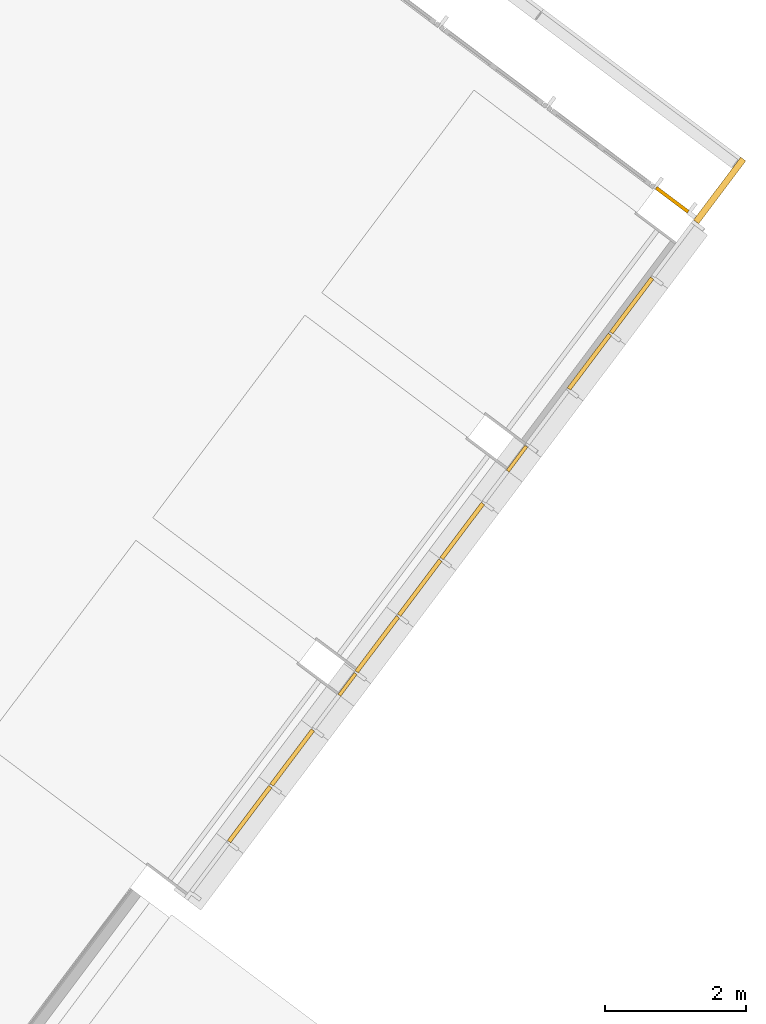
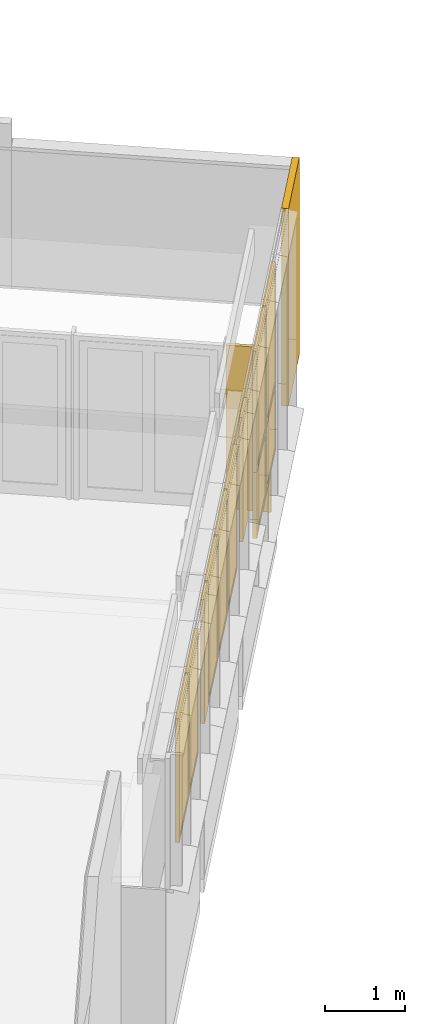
# One storey, part 9 of 15: 12 windows, 1 door, 3 elements without a shape of their own.
"""IFC2X3 building model written with IfcOpenShell, lengths in metres."""

import ifcopenshell
import ifcopenshell.guid

model = None  # the IFC model being written
_history = None  # IfcOwnerHistory: only IFC2X3 demands one
_inside = {}  # id of a spatial element -> (the spatial element, [elements in it])
_under = {}  # id of a project, library or spatial element -> (it, [spatial elements below it])
_declared = {}  # id of a project -> (the project, [libraries it declares])
_typed = {}  # id of a type object -> (the type object, [elements of that type])
_made_of = {}  # id of a material, layer set ... -> (it, [elements and type objects made of it])


def new_model(schema):
    """Start an empty IFC model of exactly this schema.

    Asked for "IFC4X3", IfcOpenShell would pick the latest addendum, in which some entities
    have other attributes; the version numbers below select the first issue.
    IFC2X3 requires an IfcOwnerHistory on every rooted entity: one is made here for all.
    """
    global model, _history
    if schema == "IFC4X3":
        model = ifcopenshell.file(schema_version=(4, 3, 0, 0))
    else:
        model = ifcopenshell.file(schema=schema)
    _inside.clear()
    _under.clear()
    _declared.clear()
    _typed.clear()
    _made_of.clear()
    _history = None
    if model.schema == "IFC2X3":
        org = make("IfcOrganization", Name="unknown")
        user = make(
            "IfcPersonAndOrganization",
            ThePerson=make("IfcPerson", FamilyName="unknown"),
            TheOrganization=org,
        )
        app = make(
            "IfcApplication",
            ApplicationDeveloper=org,
            Version="unknown",
            ApplicationFullName="unknown",
            ApplicationIdentifier="unknown",
        )
        _history = make(
            "IfcOwnerHistory",
            OwningUser=user,
            OwningApplication=app,
            ChangeAction="ADDED",
            CreationDate=0,
        )
    return model


def make(cls, **values):
    """One entity of the class cls with the attributes given. An attribute that is None is left unset."""
    return model.create_entity(
        cls, **{name: value for name, value in values.items() if value is not None}
    )


def entity(cls, *values):
    """Any entity or typed value of the class cls, its attributes in the order of the schema. None: left unset."""
    e = model.create_entity(cls)
    for i, value in enumerate(values):
        if value is not None:
            e[i] = value
    return e


def rooted(cls, **values):
    """An entity with a GlobalId (a new one), such as an element, a storey or a relation."""
    return make(cls, GlobalId=ifcopenshell.guid.new(), OwnerHistory=_history, **values)


def si_unit(unit_type, name, prefix=None):
    """IfcSIUnit, for example si_unit("LENGTHUNIT", "METRE", prefix="MILLI")."""
    return make("IfcSIUnit", UnitType=unit_type, Prefix=prefix, Name=name)


def converted_unit(unit_type, name, factor, base, dimensions=None, offset=None):
    """IfcConversionBasedUnit, such as the inch: factor (a typed value) times the base unit."""
    return make(
        "IfcConversionBasedUnit"
        if offset is None
        else "IfcConversionBasedUnitWithOffset",
        ConversionOffset=offset,
        Dimensions=None
        if dimensions is None
        else entity("IfcDimensionalExponents", *dimensions),
        UnitType=unit_type,
        Name=name,
        ConversionFactor=make(
            "IfcMeasureWithUnit", ValueComponent=factor, UnitComponent=base
        ),
    )


def derived_unit(unit_type, elements):
    """IfcDerivedUnit: a product of units, each with its exponent."""
    return make(
        "IfcDerivedUnit",
        Elements=[
            make("IfcDerivedUnitElement", Unit=unit, Exponent=power)
            for unit, power in elements
        ],
        UnitType=unit_type,
    )


def assignment(units):
    """IfcUnitAssignment: the units of a project."""
    return None if units is None else make("IfcUnitAssignment", Units=units)


def point(xyz):
    """IfcCartesianPoint."""
    return None if xyz is None else make("IfcCartesianPoint", Coordinates=xyz)


def direction(xyz):
    """IfcDirection."""
    return None if xyz is None else make("IfcDirection", DirectionRatios=xyz)


def frame(location, z_axis=None, x_axis=None):
    """IfcAxis2Placement3D, a coordinate frame: its origin and axes. An axis left out is left unset."""
    return make(
        "IfcAxis2Placement3D",
        Location=point(location),
        Axis=direction(z_axis),
        RefDirection=direction(x_axis),
    )


def frame_2d(location, x_axis=None):
    """IfcAxis2Placement2D, a coordinate frame in the plane: its origin and x axis."""
    return make(
        "IfcAxis2Placement2D", Location=point(location), RefDirection=direction(x_axis)
    )


def origin():
    """The frame at (0, 0, 0) with its axes left unset."""
    return frame((0.0, 0.0, 0.0))


def origin_2d_with_axis():
    """The frame at (0, 0) in the plane with the x axis (1, 0) written out."""
    return frame_2d((0.0, 0.0), x_axis=(1.0, 0.0))


def place(relative_to, where):
    """IfcLocalPlacement: puts the frame where relative to a parent placement (None: the world)."""
    return make(
        "IfcLocalPlacement", PlacementRelTo=relative_to, RelativePlacement=where
    )


def context(
    kind, dimensions, precision=None, world=None, true_north=None, identifier=None
):
    """IfcGeometricRepresentationContext, for example the 3D "Model" context."""
    return make(
        "IfcGeometricRepresentationContext",
        ContextIdentifier=identifier,
        ContextType=kind,
        CoordinateSpaceDimension=dimensions,
        Precision=precision,
        WorldCoordinateSystem=world,
        TrueNorth=true_north,
    )


def subcontext(parent, identifier, kind, view, scale=None):
    """IfcGeometricRepresentationSubContext, for example "Body" below "Model"."""
    return make(
        "IfcGeometricRepresentationSubContext",
        ContextIdentifier=identifier,
        ContextType=kind,
        ParentContext=parent,
        TargetScale=scale,
        TargetView=view,
    )


def project(units=None, contexts=None):
    """IfcProject with its units and contexts."""
    return rooted(
        "IfcProject",
        Name="project",
        RepresentationContexts=contexts,
        UnitsInContext=assignment(units),
    )


def spatial(cls, under=None, at=None, **own):
    """A site, building, storey or space (cls), placed at a placement, below another one or the project."""
    s = rooted(cls, ObjectPlacement=at, **own)
    if under is not None:
        _under.setdefault(under.id(), (under, []))[1].append(s)
    return s


def polyline(points):
    """IfcPolyline through the points."""
    return make("IfcPolyline", Points=[point(p) for p in points])


def profile(cls, at=None, kind="AREA", **sizes):
    """A parametric profile (cls). Its sizes go by their IFC names, for example OverallWidth=200.0."""
    return make(cls, ProfileType=kind, Position=at, **sizes)


def rectangle(**sizes):
    """IfcRectangleProfileDef."""
    return profile("IfcRectangleProfileDef", **sizes)


def outline(outer, holes=None, kind="AREA"):
    """IfcArbitraryClosedProfileDef: a profile drawn as a closed curve; with holes, ...WithVoids."""
    if holes is None:
        return make("IfcArbitraryClosedProfileDef", ProfileType=kind, OuterCurve=outer)
    return make(
        "IfcArbitraryProfileDefWithVoids",
        ProfileType=kind,
        OuterCurve=outer,
        InnerCurves=holes,
    )


def extrude(swept, where, along, depth):
    """IfcExtrudedAreaSolid: the profile swept, set in the frame where, extruded along a direction by depth."""
    return make(
        "IfcExtrudedAreaSolid",
        SweptArea=swept,
        Position=where,
        ExtrudedDirection=direction(along),
        Depth=depth,
    )


def faces_of(points, faces, orient=None, outer=None):
    """IfcFace entities. A face is a list of loops; a loop is a list of indices into points, from 0.

    orient and outer hold one flag for each loop. By default every Orientation is true, the
    first loop of a face is its IfcFaceOuterBound and the others are IfcFaceBound.
    """
    made = []
    for i, loops in enumerate(faces):
        bounds = []
        for j, loop in enumerate(loops):
            is_outer = j == 0 if outer is None else outer[i][j]
            bounds.append(
                make(
                    "IfcFaceOuterBound" if is_outer else "IfcFaceBound",
                    Bound=make("IfcPolyLoop", Polygon=[points[k] for k in loop]),
                    Orientation=True if orient is None else orient[i][j],
                )
            )
        made.append(make("IfcFace", Bounds=bounds))
    return made


def faceted_brep(points, faces, orient=None, outer=None, voids=None):
    """IfcFacetedBrep: a solid bounded by flat faces; with voids (closed shells), ...WithVoids."""
    shared = [point(p) for p in points]
    hull = make("IfcClosedShell", CfsFaces=faces_of(shared, faces, orient, outer))
    if voids is None:
        return make("IfcFacetedBrep", Outer=hull)
    return make(
        "IfcFacetedBrepWithVoids",
        Outer=hull,
        Voids=[
            make(cls, CfsFaces=faces_of(shared, fs, o, b)) for cls, fs, o, b in voids
        ],
    )


def shape(context_of_items, identifier, shape_type, items):
    """IfcShapeRepresentation: the items that make up one representation, for example the "Body"."""
    return make(
        "IfcShapeRepresentation",
        ContextOfItems=context_of_items,
        RepresentationIdentifier=identifier,
        RepresentationType=shape_type,
        Items=items,
    )


def source(mapping_origin, context_of_items, identifier, shape_type, items):
    """IfcRepresentationMap: a shape defined once, which mapped items show again and again."""
    return make(
        "IfcRepresentationMap",
        MappingOrigin=mapping_origin,
        MappedRepresentation=shape(context_of_items, identifier, shape_type, items),
    )


def transform(
    local_origin,
    x_axis=None,
    y_axis=None,
    z_axis=None,
    scale=None,
    scale2=None,
    scale3=None,
    uniform=True,
):
    """IfcCartesianTransformationOperator3D, or its non-uniform kind. x_axis, y_axis, z_axis: its Axis1, 2, 3."""
    if uniform:
        return make(
            "IfcCartesianTransformationOperator3D",
            Axis1=direction(x_axis),
            Axis2=direction(y_axis),
            LocalOrigin=point(local_origin),
            Scale=scale,
            Axis3=direction(z_axis),
        )
    return make(
        "IfcCartesianTransformationOperator3DnonUniform",
        Axis1=direction(x_axis),
        Axis2=direction(y_axis),
        LocalOrigin=point(local_origin),
        Scale=scale,
        Axis3=direction(z_axis),
        Scale2=scale2,
        Scale3=scale3,
    )


def mapped(mapping_source, mapping_target):
    """IfcMappedItem: shows the shape of a source again, moved by a transform."""
    return make(
        "IfcMappedItem", MappingSource=mapping_source, MappingTarget=mapping_target
    )


def material(Name=None, Category=None):
    """IfcMaterial."""
    return make("IfcMaterial", Name=Name, Category=Category)


def material_list(materials):
    """IfcMaterialList."""
    return make("IfcMaterialList", Materials=materials)


def made_of(thing, what):
    """Note that an element or type object is made of a material, layer set ...; save() writes the relation."""
    if what is not None:
        _made_of.setdefault(what.id(), (what, []))[1].append(thing)
    return thing


def type_object(cls, material=None, **own):
    """A type object (cls), such as IfcWallType, which elements share."""
    return made_of(rooted(cls, **own), material)


def type_shapes(of_type, sources):
    """Give a type object the sources (RepresentationMaps) that its elements show as mapped items."""
    of_type.RepresentationMaps = sources


def element(
    cls,
    number,
    at=None,
    inside=None,
    cuts=None,
    type_object=None,
    material=None,
    context=None,
    identifier="Body",
    shape_type=None,
    held_by="IfcProductDefinitionShape",
    body=None,
    shapes=None,
    **own,
):
    """One element of the class cls, such as IfcWall. Its Tag is "e" and its number.

    at: its placement. inside: the storey or other place that contains it. cuts: it is an
    opening in that element (IfcRelVoidsElement). A single representation is given by context,
    identifier, shape_type and body (its items); several are given by shapes. held_by: the class
    of the entity that holds the representations. save() writes the other relations.
    """
    e = rooted(cls, Tag="e%d" % number, ObjectPlacement=at, **own)
    if body is not None:
        shapes = [shape(context, identifier, shape_type, body)]
    if shapes is not None:
        e.Representation = make(held_by, Representations=shapes)
    if inside is not None:
        _inside.setdefault(inside.id(), (inside, []))[1].append(e)
    if cuts is not None:
        rooted(
            "IfcRelVoidsElement", RelatingBuildingElement=cuts, RelatedOpeningElement=e
        )
    if type_object is not None:
        _typed.setdefault(type_object.id(), (type_object, []))[1].append(e)
    return made_of(e, material)


def aggregate(whole, parts):
    """IfcRelAggregates: a whole, such as a stair, and the parts it consists of."""
    return rooted("IfcRelAggregates", RelatingObject=whole, RelatedObjects=parts)


def save(model, path):
    """Write the relations noted so far, then the file.

    IfcRelAggregates (storeys below a building ...), IfcRelContainedInSpatialStructure (elements
    in a storey), IfcRelDefinesByType, IfcRelAssociatesMaterial and IfcRelDeclares: one each for
    every whole, place, type object, material and project.
    """
    for whole, parts in _under.values():
        aggregate(whole, parts)
    for where, things in _inside.values():
        rooted(
            "IfcRelContainedInSpatialStructure",
            RelatedElements=things,
            RelatingStructure=where,
        )
    for kind, things in _typed.values():
        rooted("IfcRelDefinesByType", RelatedObjects=things, RelatingType=kind)
    for what, things in _made_of.values():
        rooted("IfcRelAssociatesMaterial", RelatedObjects=things, RelatingMaterial=what)
    for by, libraries in _declared.values():
        rooted("IfcRelDeclares", RelatingContext=by, RelatedDefinitions=libraries)
    model.write(path)


model = new_model("IFC2X3")

# Units and contexts
model_context = context("Model", 3, precision=1e-05, world=origin(), true_north=direction((6.123031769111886e-17, 1.0)))
body_context = subcontext(model_context, "Body", "Model", "MODEL_VIEW")
ifc_project = project(units=[si_unit("LENGTHUNIT", "METRE"), si_unit("AREAUNIT", "SQUARE_METRE"), si_unit("VOLUMEUNIT", "CUBIC_METRE"), converted_unit("PLANEANGLEUNIT", "DEGREE", entity("IfcRatioMeasure", 0.017453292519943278), si_unit("PLANEANGLEUNIT", "RADIAN"), dimensions=[0, 0, 0, 0, 0, 0, 0]), si_unit("MASSUNIT", "GRAM", prefix="KILO"), derived_unit("MASSDENSITYUNIT", [(si_unit("MASSUNIT", "GRAM", prefix="KILO"), 1), (si_unit("LENGTHUNIT", "METRE"), -3)]), derived_unit("IONCONCENTRATIONUNIT", [(si_unit("MASSUNIT", "GRAM", prefix="KILO"), 1), (si_unit("LENGTHUNIT", "METRE"), -3)]), derived_unit("MOMENTOFINERTIAUNIT", [(si_unit("LENGTHUNIT", "METRE"), 4)]), si_unit("TIMEUNIT", "SECOND"), si_unit("FREQUENCYUNIT", "HERTZ"), si_unit("THERMODYNAMICTEMPERATUREUNIT", "DEGREE_CELSIUS"), derived_unit("THERMALTRANSMITTANCEUNIT", [(si_unit("MASSUNIT", "GRAM", prefix="KILO"), 1), (si_unit("THERMODYNAMICTEMPERATUREUNIT", "KELVIN"), -1), (si_unit("TIMEUNIT", "SECOND"), -3)]), derived_unit("THERMALCONDUCTANCEUNIT", [(si_unit("MASSUNIT", "GRAM", prefix="KILO"), 1), (si_unit("THERMODYNAMICTEMPERATUREUNIT", "KELVIN"), -1), (si_unit("TIMEUNIT", "SECOND"), -3), (si_unit("LENGTHUNIT", "METRE"), 1)]), derived_unit("VOLUMETRICFLOWRATEUNIT", [(si_unit("LENGTHUNIT", "METRE"), 3), (si_unit("TIMEUNIT", "SECOND"), -1)]), derived_unit("MASSFLOWRATEUNIT", [(si_unit("MASSUNIT", "GRAM", prefix="KILO"), 1), (si_unit("TIMEUNIT", "SECOND"), -1)]), derived_unit("ROTATIONALFREQUENCYUNIT", [(si_unit("TIMEUNIT", "SECOND"), -1)]), si_unit("ELECTRICCURRENTUNIT", "AMPERE"), si_unit("ELECTRICVOLTAGEUNIT", "VOLT"), si_unit("POWERUNIT", "WATT"), si_unit("FORCEUNIT", "NEWTON", prefix="KILO"), si_unit("ILLUMINANCEUNIT", "LUX"), si_unit("LUMINOUSFLUXUNIT", "LUMEN"), si_unit("LUMINOUSINTENSITYUNIT", "CANDELA"), derived_unit("USERDEFINED", [(si_unit("MASSUNIT", "GRAM", prefix="KILO"), -1), (si_unit("LENGTHUNIT", "METRE"), -2), (si_unit("TIMEUNIT", "SECOND"), 3), (si_unit("LUMINOUSFLUXUNIT", "LUMEN"), 1)]), derived_unit("USERDEFINED", [(si_unit("MASSUNIT", "GRAM", prefix="KILO"), 1), (si_unit("TIMEUNIT", "SECOND"), -3), (si_unit("LENGTHUNIT", "METRE"), 3), (si_unit("ELECTRICCURRENTUNIT", "AMPERE"), -2)]), derived_unit("SOUNDPOWERUNIT", [(si_unit("MASSUNIT", "GRAM", prefix="KILO"), 1), (si_unit("TIMEUNIT", "SECOND"), -3), (si_unit("LENGTHUNIT", "METRE"), 2)]), derived_unit("SOUNDPRESSUREUNIT", [(si_unit("MASSUNIT", "GRAM", prefix="KILO"), 1), (si_unit("LENGTHUNIT", "METRE"), -1), (si_unit("TIMEUNIT", "SECOND"), -2)]), derived_unit("LINEARVELOCITYUNIT", [(si_unit("LENGTHUNIT", "METRE"), 1), (si_unit("TIMEUNIT", "SECOND"), -1)]), si_unit("PRESSUREUNIT", "PASCAL"), derived_unit("USERDEFINED", [(si_unit("MASSUNIT", "GRAM", prefix="KILO"), 1), (si_unit("LENGTHUNIT", "METRE"), -2), (si_unit("TIMEUNIT", "SECOND"), -2)]), derived_unit("LINEARFORCEUNIT", [(si_unit("MASSUNIT", "GRAM", prefix="KILO"), 1), (si_unit("TIMEUNIT", "SECOND"), -2)]), derived_unit("PLANARFORCEUNIT", [(si_unit("MASSUNIT", "GRAM", prefix="KILO"), 1), (si_unit("LENGTHUNIT", "METRE"), -1), (si_unit("TIMEUNIT", "SECOND"), -2)]), derived_unit("SPECIFICHEATCAPACITYUNIT", [(si_unit("THERMODYNAMICTEMPERATUREUNIT", "KELVIN"), -1), (si_unit("LENGTHUNIT", "METRE"), 2), (si_unit("TIMEUNIT", "SECOND"), -2)]), derived_unit("HEATINGVALUEUNIT", [(si_unit("LENGTHUNIT", "METRE"), 2), (si_unit("TIMEUNIT", "SECOND"), -2)]), derived_unit("VAPORPERMEABILITYUNIT", [(si_unit("LENGTHUNIT", "METRE"), -1), (si_unit("TIMEUNIT", "SECOND"), 1)]), derived_unit("DYNAMICVISCOSITYUNIT", [(si_unit("MASSUNIT", "GRAM", prefix="KILO"), 1), (si_unit("TIMEUNIT", "SECOND"), -1), (si_unit("LENGTHUNIT", "METRE"), -1)]), derived_unit("THERMALEXPANSIONCOEFFICIENTUNIT", [(si_unit("THERMODYNAMICTEMPERATUREUNIT", "KELVIN"), -1)]), derived_unit("MODULUSOFELASTICITYUNIT", [(si_unit("MASSUNIT", "GRAM", prefix="KILO"), 1), (si_unit("LENGTHUNIT", "METRE"), -1), (si_unit("TIMEUNIT", "SECOND"), -2)]), derived_unit("ISOTHERMALMOISTURECAPACITYUNIT", [(si_unit("LENGTHUNIT", "METRE"), 3), (si_unit("MASSUNIT", "GRAM", prefix="KILO"), -1)]), derived_unit("MOISTUREDIFFUSIVITYUNIT", [(si_unit("TIMEUNIT", "SECOND"), -1), (si_unit("LENGTHUNIT", "METRE"), 2)])], contexts=[model_context])

# Site, building, storey
site_placement = place(None, frame((0.0, 0.0, 235.0), z_axis=(0.0, 0.0, 1.0), x_axis=(-0.7996477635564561, 0.6004693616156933, 0.0)))
site = spatial("IfcSite", under=ifc_project, at=site_placement, Name="Default", CompositionType="ELEMENT")
building_placement = place(site_placement, origin())
building = spatial("IfcBuilding", under=site, at=building_placement, CompositionType="ELEMENT")
storey_placement = place(building_placement, frame((0.0, 0.0, -5.4499999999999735)))
storey = spatial("IfcBuildingStorey", under=building, at=storey_placement, Name="PS1- Gimnàs", CompositionType="ELEMENT", Elevation=-5.4499999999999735)

# Curtain wall, windows
curtain_wall_type_1 = type_object("IfcCurtainWallType", Name="Muro cortina:MC- EXT- MCv1- lateral", PredefinedType="NOTDEFINED")
curtain_wall_1_placement = place(storey_placement, frame((0.0, 0.0, 5.4499999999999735)))
curtain_wall_1 = element("IfcCurtainWall", 1, at=curtain_wall_1_placement, inside=storey, type_object=curtain_wall_type_1, Name="Muro cortina:MC- EXT- MCv1- lateral", ObjectType="Muro cortina:MC- EXT- MCv1- lateral")
ifc_material_1 = material(Name="<Unnamed>")
ifc_material_2 = material(Name="_Vidre")
ifc_material_3 = material(Name="_Alumini- T1- Perfil")
ifc_material_list_1 = material_list([ifc_material_1, ifc_material_2, ifc_material_3])
window_style_1 = type_object("IfcWindowStyle", Name="MC- Alu- Conjunt vidre fix revestiment:MC- Alu- Conjunt vidre fix revestiment", ConstructionType="NOTDEFINED", OperationType="NOTDEFINED", ParameterTakesPrecedence=False, Sizeable=False, material=ifc_material_list_1)
shared_shape_1 = source(origin(), body_context, "Body", "SweptSolid", [
    extrude(rectangle(XDim=0.039999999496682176, YDim=0.42999999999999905, at=frame_2d((3.469446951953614e-18, 0.0), x_axis=(1.0, 0.0))), frame((0.0, -0.029999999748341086, 0.0050000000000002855), z_axis=(0.0, 0.0, 1.0), x_axis=(0.0, -1.0, 0.0)), (0.0, 0.0, 1.0), 1.8814999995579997),
    extrude(rectangle(XDim=0.010000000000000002, YDim=0.43999999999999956, at=origin_2d_with_axis()), frame((0.0, -0.005000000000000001, 0.0), z_axis=(0.0, 0.0, 1.0), x_axis=(0.0, -1.0, 0.0)), (0.0, 0.0, 1.0), 1.8914999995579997),
    extrude(outline(polyline([(-0.21999999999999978, -0.9457499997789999), (0.21999999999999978, -0.9457499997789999), (0.21999999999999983, 0.9457499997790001), (-0.2199999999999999, 0.9457499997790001), (-0.21999999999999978, -0.9457499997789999)]), holes=[polyline([(0.21499999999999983, -0.940749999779), (-0.21499999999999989, -0.940749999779), (-0.21499999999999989, 0.940749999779), (0.21499999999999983, 0.940749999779), (0.21499999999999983, -0.940749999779)])]), frame((0.0, -0.049999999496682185, 0.9457499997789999), z_axis=(0.0, 1.0, 0.0), x_axis=(1.0, 0.0, 0.0)), (0.0, 0.0, 1.0), 0.03999999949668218),
])
type_shapes(window_style_1, [shared_shape_1])
window_1_placement = place(curtain_wall_1_placement, frame((3.085147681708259, -34.17019175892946, -2.783999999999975), z_axis=(0.0, 0.0, 1.0), x_axis=(0.0, 1.0, 0.0)))
window_1 = element("IfcWindow", 2, at=window_1_placement, type_object=window_style_1, material=ifc_material_list_1, Name="MC- Alu- Conjunt vidre fix revestiment:MC- Alu- Conjunt vidre fix revestiment", ObjectType="MC- Alu- Conjunt vidre fix revestiment:MC- Alu- Conjunt vidre fix revestiment", OverallHeight=1.8914999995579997, OverallWidth=0.4399999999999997, context=body_context, shape_type="MappedRepresentation", body=[
    mapped(shared_shape_1, transform((0.0, 0.0, 0.0), scale=1.0)),
])
ifc_material_list_2 = material_list([ifc_material_2, ifc_material_3])
window_style_2 = type_object("IfcWindowStyle", Name="MC- Alu- Conjunt vidre fix- 62x60 cm:MC- Alu- Conjunt vidre fix- 62x60 cm", ConstructionType="NOTDEFINED", OperationType="NOTDEFINED", ParameterTakesPrecedence=False, Sizeable=False, material=ifc_material_list_2)
shared_shape_2 = source(origin(), body_context, "Body", "Brep", [
    faceted_brep([(-0.4393309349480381, -0.007600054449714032, 0.048806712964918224), (0.4393309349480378, -0.007600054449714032, 0.048806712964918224), (0.4393309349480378, -0.03160022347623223, 0.048806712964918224), (-0.4393309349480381, -0.03160022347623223, 0.048806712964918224), (-0.4393309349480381, -0.007600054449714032, 1.8424999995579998), (0.4393309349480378, -0.007600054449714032, 1.8424999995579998), (0.4393309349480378, -0.03160022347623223, 1.8424999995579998), (-0.4393309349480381, -0.03160022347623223, 1.8424999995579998)], [[[0, 1, 2, 3]], [[4, 5, 1, 0]], [[5, 6, 2, 1]], [[6, 7, 3, 2]], [[7, 4, 0, 3]], [[4, 7, 6, 5]]]),
    faceted_brep([(-0.48813764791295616, -0.05999999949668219, 1.8914999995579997), (-0.48813764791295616, 0.0, 1.8914999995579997), (-0.48813764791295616, 0.0, 0.0), (-0.4881376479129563, -0.05999999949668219, 0.0), (-0.42533083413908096, 0.0, 1.8286931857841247), (-0.42533083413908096, 0.0, 0.06280681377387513), (0.425330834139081, 0.0, 0.06280681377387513), (0.42533083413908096, 0.0, 1.8286931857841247), (0.4881376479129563, 0.0, 1.8914999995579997), (0.48813764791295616, 0.0, 0.0), (0.4881376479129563, -0.05999999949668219, 0.0), (0.48813764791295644, -0.05999999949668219, 1.8914999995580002), (0.4253336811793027, -0.05999999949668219, 1.8286960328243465), (0.4253336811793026, -0.05999999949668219, 0.0628039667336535), (-0.4253336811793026, -0.05999999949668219, 0.06280396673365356), (-0.4253336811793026, -0.05999999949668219, 1.8286960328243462), (-0.4253336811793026, -0.03160022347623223, 1.8286960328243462), (-0.42533368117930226, -0.03160022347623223, 0.06280396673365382), (0.42533368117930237, -0.03160022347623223, 0.06280396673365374), (0.42533368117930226, -0.03160022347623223, 1.828696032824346), (0.43933093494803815, -0.03160022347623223, 1.8426932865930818), (0.439330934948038, -0.03160022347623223, 0.048806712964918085), (-0.439330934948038, -0.03160022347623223, 0.04880671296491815), (-0.439330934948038, -0.03160022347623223, 1.8426932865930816), (-0.439330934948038, -0.007600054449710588, 1.8426932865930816), (-0.439330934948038, -0.007600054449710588, 0.04880671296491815), (0.439330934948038, -0.007600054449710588, 0.048806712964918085), (0.439330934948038, -0.007600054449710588, 1.8426932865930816), (0.4253308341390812, -0.007600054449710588, 1.8286931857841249), (0.425330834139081, -0.007600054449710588, 0.06280681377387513), (-0.4253308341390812, -0.007600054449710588, 0.06280681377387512), (-0.42533083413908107, -0.007600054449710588, 1.8286931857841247)], [[[0, 1, 2, 3]], [[4, 5, 6, 7], [8, 9, 2, 1]], [[3, 2, 9, 10]], [[0, 3, 10, 11], [12, 13, 14, 15]], [[16, 15, 14, 17]], [[17, 14, 13, 18]], [[16, 17, 18, 19], [20, 21, 22, 23]], [[24, 23, 22, 25]], [[25, 22, 21, 26]], [[24, 25, 26, 27], [28, 29, 30, 31]], [[4, 31, 30, 5]], [[5, 30, 29, 6]], [[10, 9, 8, 11]], [[18, 13, 12, 19]], [[26, 21, 20, 27]], [[6, 29, 28, 7]], [[11, 8, 1, 0]], [[19, 12, 15, 16]], [[27, 20, 23, 24]], [[7, 28, 31, 4]]], outer=[[True], [False, True], [True], [True, False], [True], [True], [False, True], [True], [True], [True, False], [True], [True], [True], [True], [True], [True], [True], [True], [True], [True]]),
])
type_shapes(window_style_2, [shared_shape_2])
window_2_placement = place(curtain_wall_1_placement, frame((3.0851476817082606, -32.88077881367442, -2.783999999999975), z_axis=(0.0, 0.0, 1.0), x_axis=(0.0, 1.0, 0.0)))
window_2 = element("IfcWindow", 3, at=window_2_placement, type_object=window_style_2, material=ifc_material_list_2, Name="MC- Alu- Conjunt vidre fix- 62x60 cm:MC- Alu- Conjunt vidre fix- 62x60 cm", ObjectType="MC- Alu- Conjunt vidre fix- 62x60 cm:MC- Alu- Conjunt vidre fix- 62x60 cm", OverallHeight=1.8914999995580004, OverallWidth=0.976275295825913, context=body_context, shape_type="MappedRepresentation", body=[
    mapped(shared_shape_2, transform((0.0, 0.0, 0.0), scale=1.0)),
])
window_3_placement = place(curtain_wall_1_placement, frame((3.0851476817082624, -31.874503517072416, -2.783999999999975), z_axis=(0.0, 0.0, 1.0), x_axis=(0.0, 1.0, 0.0)))
window_3 = element("IfcWindow", 4, at=window_3_placement, type_object=window_style_2, material=ifc_material_list_2, Name="MC- Alu- Conjunt vidre fix- 62x60 cm:MC- Alu- Conjunt vidre fix- 62x60 cm", ObjectType="MC- Alu- Conjunt vidre fix- 62x60 cm:MC- Alu- Conjunt vidre fix- 62x60 cm", OverallHeight=1.8914999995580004, OverallWidth=0.976275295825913, context=body_context, shape_type="MappedRepresentation", body=[
    mapped(shared_shape_2, transform((0.0, 0.0, 0.0), scale=1.0)),
])
window_4_placement = place(curtain_wall_1_placement, frame((3.085147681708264, -30.868228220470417, -2.783999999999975), z_axis=(0.0, 0.0, 1.0), x_axis=(0.0, 1.0, 0.0)))
window_4 = element("IfcWindow", 5, at=window_4_placement, type_object=window_style_2, material=ifc_material_list_2, Name="MC- Alu- Conjunt vidre fix- 62x60 cm:MC- Alu- Conjunt vidre fix- 62x60 cm", ObjectType="MC- Alu- Conjunt vidre fix- 62x60 cm:MC- Alu- Conjunt vidre fix- 62x60 cm", OverallHeight=1.8914999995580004, OverallWidth=0.976275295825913, context=body_context, shape_type="MappedRepresentation", body=[
    mapped(shared_shape_2, transform((0.0, 0.0, 0.0), scale=1.0)),
])
window_5_placement = place(curtain_wall_1_placement, frame((3.0851476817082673, -28.855677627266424, -2.783999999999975), z_axis=(0.0, 0.0, 1.0), x_axis=(0.0, 1.0, 0.0)))
window_5 = element("IfcWindow", 6, at=window_5_placement, type_object=window_style_2, material=ifc_material_list_2, Name="MC- Alu- Conjunt vidre fix- 62x60 cm:MC- Alu- Conjunt vidre fix- 62x60 cm", ObjectType="MC- Alu- Conjunt vidre fix- 62x60 cm:MC- Alu- Conjunt vidre fix- 62x60 cm", OverallHeight=1.8914999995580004, OverallWidth=0.976275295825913, context=body_context, shape_type="MappedRepresentation", body=[
    mapped(shared_shape_2, transform((0.0, 0.0, 0.0), scale=1.0)),
])
window_6_placement = place(curtain_wall_1_placement, frame((3.085147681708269, -27.84940233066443, -2.783999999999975), z_axis=(0.0, 0.0, 1.0), x_axis=(0.0, 1.0, 0.0)))
window_6 = element("IfcWindow", 7, at=window_6_placement, type_object=window_style_2, material=ifc_material_list_2, Name="MC- Alu- Conjunt vidre fix- 62x60 cm:MC- Alu- Conjunt vidre fix- 62x60 cm", ObjectType="MC- Alu- Conjunt vidre fix- 62x60 cm:MC- Alu- Conjunt vidre fix- 62x60 cm", OverallHeight=1.8914999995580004, OverallWidth=0.976275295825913, context=body_context, shape_type="MappedRepresentation", body=[
    mapped(shared_shape_2, transform((0.0, 0.0, 0.0), scale=1.0)),
])
window_style_3 = type_object("IfcWindowStyle", Name="MC- Alu- Conjunt vidre fix revestiment:MC- Alu- Conjunt vidre fix revestiment", ConstructionType="NOTDEFINED", OperationType="NOTDEFINED", ParameterTakesPrecedence=False, Sizeable=False, material=ifc_material_list_1)
shared_shape_3 = source(origin(), body_context, "Body", "SweptSolid", [
    extrude(rectangle(XDim=0.039999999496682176, YDim=0.3749999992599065, at=frame_2d((3.469446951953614e-18, 0.0), x_axis=(1.0, 0.0))), frame((0.0, -0.029999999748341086, 0.0050000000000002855), z_axis=(0.0, 0.0, 1.0), x_axis=(0.0, -1.0, 0.0)), (0.0, 0.0, 1.0), 1.8814999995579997),
    extrude(rectangle(XDim=0.010000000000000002, YDim=0.384999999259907, at=origin_2d_with_axis()), frame((0.0, -0.005000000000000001, 0.0), z_axis=(0.0, 0.0, 1.0), x_axis=(0.0, -1.0, 0.0)), (0.0, 0.0, 1.0), 1.8914999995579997),
    extrude(outline(polyline([(-0.1924999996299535, -0.9457499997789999), (0.1924999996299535, -0.9457499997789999), (0.19249999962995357, 0.9457499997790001), (-0.19249999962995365, 0.9457499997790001), (-0.1924999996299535, -0.9457499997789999)]), holes=[polyline([(0.18749999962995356, -0.940749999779), (-0.18749999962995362, -0.940749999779), (-0.18749999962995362, 0.940749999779), (0.18749999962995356, 0.940749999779), (0.18749999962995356, -0.940749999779)])]), frame((0.0, -0.049999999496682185, 0.9457499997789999), z_axis=(0.0, 1.0, 0.0), x_axis=(1.0, 0.0, 0.0)), (0.0, 0.0, 1.0), 0.03999999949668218),
])
type_shapes(window_style_3, [shared_shape_3])
window_7_placement = place(curtain_wall_1_placement, frame((3.085147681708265, -30.157590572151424, -2.783999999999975), z_axis=(0.0, 0.0, 1.0), x_axis=(0.0, 1.0, 0.0)))
window_7 = element("IfcWindow", 8, at=window_7_placement, type_object=window_style_3, material=ifc_material_list_1, Name="MC- Alu- Conjunt vidre fix revestiment:MC- Alu- Conjunt vidre fix revestiment", ObjectType="MC- Alu- Conjunt vidre fix revestiment:MC- Alu- Conjunt vidre fix revestiment", OverallHeight=1.8914999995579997, OverallWidth=0.3849999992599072, context=body_context, shape_type="MappedRepresentation", body=[
    mapped(shared_shape_3, transform((0.0, 0.0, 0.0), scale=1.0)),
])
aggregate(curtain_wall_1, [window_1, window_2, window_3, window_4, window_7, window_5, window_6])

# Door
ifc_material_4 = material(Name="_Aillament")
ifc_material_list_3 = material_list([ifc_material_4, ifc_material_3])
door_style = type_object("IfcDoorStyle", Name="MC- Alu- Remats panell opac:MC- Alu- Remats panell opac", ConstructionType="NOTDEFINED", OperationType="NOTDEFINED", ParameterTakesPrecedence=False, Sizeable=False, material=ifc_material_list_3)
shared_shape_4 = source(origin(), body_context, "Body", "SweptSolid", [
    extrude(rectangle(XDim=1.096443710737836, YDim=0.06999999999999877, at=frame_2d((0.0, -5.412337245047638e-16), x_axis=(1.0, 0.0))), frame((0.04499999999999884, 0.5582218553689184, 0.0), z_axis=(0.0, 0.0, 1.0), x_axis=(0.0, -1.0, 0.0)), (0.0, 0.0, 1.0), 3.01),
    extrude(outline(polyline([(-0.5582218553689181, -0.0449999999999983), (0.5582218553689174, -0.0449999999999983), (0.5582218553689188, 0.0449999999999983), (-0.5582218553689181, 0.0449999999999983), (-0.5582218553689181, -0.0449999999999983)]), holes=[polyline([(-0.5482218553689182, 0.0349999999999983), (0.5482218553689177, 0.0349999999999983), (0.5482218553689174, -0.0349999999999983), (-0.5482218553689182, -0.034999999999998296), (-0.5482218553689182, 0.0349999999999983)])]), frame((0.0449999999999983, 0.5582218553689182, 0.0), z_axis=(0.0, 0.0, 1.0), x_axis=(0.0, -1.0, 0.0)), (0.0, 0.0, 1.0), 3.01),
])
type_shapes(door_style, [shared_shape_4])
door_placement = place(storey_placement, frame((3.0511476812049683, -39.50519175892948, 1.6499999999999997)))
element("IfcDoor", 9, at=door_placement, inside=storey, type_object=door_style, material=ifc_material_list_3, Name="MC- Alu- Remats panell opac:MC- Alu- Remats panell opac", ObjectType="MC- Alu- Remats panell opac:MC- Alu- Remats panell opac", OverallHeight=3.0100000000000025, OverallWidth=0.0899999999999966, context=body_context, shape_type="MappedRepresentation", body=[
    mapped(shared_shape_4, transform((0.0, 0.0, 0.0), scale=1.0)),
])

# Curtain wall, window
curtain_wall_type_2 = type_object("IfcCurtainWallType", Name="Muro cortina:MC- EXT- MCv1- Portes", PredefinedType="NOTDEFINED")
curtain_wall_2_placement = place(storey_placement, frame((0.0, 0.0, 5.4499999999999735)))
curtain_wall_2 = element("IfcCurtainWall", 10, at=curtain_wall_2_placement, inside=storey, type_object=curtain_wall_type_2, Name="Muro cortina:MC- EXT- MCv1- Portes", ObjectType="Muro cortina:MC- EXT- MCv1- Portes")
window_style_4 = type_object("IfcWindowStyle", Name="MC- Alu- Conjunt vidre fix revestiment:MC- Alu- Conjunt vidre fix revestiment", ConstructionType="NOTDEFINED", OperationType="NOTDEFINED", ParameterTakesPrecedence=False, Sizeable=False, material=ifc_material_list_1)
shared_shape_5 = source(origin(), body_context, "Body", "SweptSolid", [
    extrude(rectangle(XDim=0.039999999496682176, YDim=0.5577499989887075, at=frame_2d((3.469446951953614e-18, 0.0), x_axis=(1.0, 0.0))), frame((0.0, -0.029999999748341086, 0.0050000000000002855), z_axis=(0.0, 0.0, 1.0), x_axis=(0.0, -1.0, 0.0)), (0.0, 0.0, 1.0), 2.4899999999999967),
    extrude(rectangle(XDim=0.010000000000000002, YDim=0.5677499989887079, at=origin_2d_with_axis()), frame((0.0, -0.005000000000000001, 0.0), z_axis=(0.0, 0.0, 1.0), x_axis=(0.0, -1.0, 0.0)), (0.0, 0.0, 1.0), 2.499999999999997),
    extrude(outline(polyline([(-0.28387499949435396, -1.2499999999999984), (0.28387499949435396, -1.2499999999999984), (0.283874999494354, 1.2499999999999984), (-0.28387499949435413, 1.2499999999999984), (-0.28387499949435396, -1.2499999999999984)]), holes=[polyline([(0.278874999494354, -1.2449999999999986), (-0.2788749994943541, -1.2449999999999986), (-0.2788749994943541, 1.2449999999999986), (0.278874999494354, 1.2449999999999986), (0.278874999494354, -1.2449999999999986)])]), frame((0.0, -0.049999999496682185, 1.2499999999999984), z_axis=(0.0, 1.0, 0.0), x_axis=(1.0, 0.0, 0.0)), (0.0, 0.0, 1.0), 0.03999999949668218),
])
type_shapes(window_style_4, [shared_shape_5])
window_8_placement = place(curtain_wall_2_placement, frame((3.5562726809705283, -38.460191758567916, -5.449999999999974), z_axis=(0.0, 0.0, 1.0), x_axis=(-1.0, 0.0, 0.0)))
window_8 = element("IfcWindow", 11, at=window_8_placement, type_object=window_style_4, material=ifc_material_list_1, Name="MC- Alu- Conjunt vidre fix revestiment:MC- Alu- Conjunt vidre fix revestiment", ObjectType="MC- Alu- Conjunt vidre fix revestiment:MC- Alu- Conjunt vidre fix revestiment", OverallHeight=2.499999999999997, OverallWidth=0.5677499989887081, context=body_context, shape_type="MappedRepresentation", body=[
    mapped(shared_shape_5, transform((0.0, 0.0, 0.0), scale=1.0)),
])
aggregate(curtain_wall_2, [window_8])

# Curtain wall, windows
curtain_wall_3_placement = place(storey_placement, frame((0.0, 0.0, 5.4499999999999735)))
curtain_wall_3 = element("IfcCurtainWall", 12, at=curtain_wall_3_placement, inside=storey, type_object=curtain_wall_type_1, Name="Muro cortina:MC- EXT- MCv1- lateral", ObjectType="Muro cortina:MC- EXT- MCv1- lateral")
window_style_5 = type_object("IfcWindowStyle", Name="MC- Alu- Conjunt vidre fix- 62x60 cm:MC- Alu- Conjunt vidre fix- 62x60 cm", ConstructionType="NOTDEFINED", OperationType="NOTDEFINED", ParameterTakesPrecedence=False, Sizeable=False, material=ifc_material_list_2)
shared_shape_6 = source(origin(), body_context, "Body", "Brep", [
    faceted_brep([(-0.4359526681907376, -0.007600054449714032, 0.048806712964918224), (0.4359526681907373, -0.007600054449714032, 0.048806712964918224), (0.4359526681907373, -0.03160022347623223, 0.048806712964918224), (-0.4359526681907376, -0.03160022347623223, 0.048806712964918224), (-0.4359526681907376, -0.007600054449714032, 0.9550000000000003), (0.4359526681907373, -0.007600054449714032, 0.9550000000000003), (0.4359526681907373, -0.03160022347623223, 0.9550000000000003), (-0.4359526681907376, -0.03160022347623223, 0.9550000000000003)], [[[0, 1, 2, 3]], [[4, 5, 1, 0]], [[5, 6, 2, 1]], [[6, 7, 3, 2]], [[7, 4, 0, 3]], [[4, 7, 6, 5]]]),
    faceted_brep([(-0.48475938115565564, -0.05999999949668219, 1.0040000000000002), (-0.48475938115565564, 0.0, 1.0040000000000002), (-0.4847593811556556, 0.0, 0.0), (-0.48475938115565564, -0.05999999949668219, 0.0), (-0.42195256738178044, 0.0, 0.9411931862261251), (-0.42195256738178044, 0.0, 0.06280681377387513), (0.4219525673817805, 0.0, 0.06280681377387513), (0.4219525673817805, 0.0, 0.9411931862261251), (0.4847593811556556, 0.0, 1.0040000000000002), (0.48475938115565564, 0.0, 0.0), (0.48475938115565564, -0.05999999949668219, 0.0), (0.48475938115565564, -0.05999999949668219, 1.0040000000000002), (0.4219554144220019, -0.05999999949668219, 0.9411960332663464), (0.42195541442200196, -0.05999999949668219, 0.0628039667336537), (-0.4219554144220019, -0.05999999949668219, 0.06280396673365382), (-0.42195541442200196, -0.05999999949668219, 0.9411960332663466), (-0.42195541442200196, -0.03160022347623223, 0.9411960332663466), (-0.42195541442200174, -0.03160022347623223, 0.06280396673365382), (0.4219554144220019, -0.03160022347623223, 0.06280396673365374), (0.4219554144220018, -0.03160022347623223, 0.9411960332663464), (0.43595266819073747, -0.03160022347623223, 0.9551932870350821), (0.43595266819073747, -0.03160022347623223, 0.048806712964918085), (-0.43595266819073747, -0.03160022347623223, 0.04880671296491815), (-0.43595266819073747, -0.03160022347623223, 0.9551932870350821), (-0.43595266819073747, -0.007600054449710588, 0.9551932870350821), (-0.43595266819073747, -0.007600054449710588, 0.04880671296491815), (0.43595266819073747, -0.007600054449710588, 0.048806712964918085), (0.43595266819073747, -0.007600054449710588, 0.9551932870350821), (0.42195256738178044, -0.007600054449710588, 0.941193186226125), (0.4219525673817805, -0.007600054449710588, 0.06280681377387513), (-0.42195256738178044, -0.007600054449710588, 0.06280681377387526), (-0.4219525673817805, -0.007600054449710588, 0.9411931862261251)], [[[0, 1, 2, 3]], [[4, 5, 6, 7], [8, 9, 2, 1]], [[3, 2, 9, 10]], [[0, 3, 10, 11], [12, 13, 14, 15]], [[16, 15, 14, 17]], [[17, 14, 13, 18]], [[16, 17, 18, 19], [20, 21, 22, 23]], [[24, 23, 22, 25]], [[25, 22, 21, 26]], [[24, 25, 26, 27], [28, 29, 30, 31]], [[4, 31, 30, 5]], [[5, 30, 29, 6]], [[10, 9, 8, 11]], [[18, 13, 12, 19]], [[26, 21, 20, 27]], [[6, 29, 28, 7]], [[11, 8, 1, 0]], [[19, 12, 15, 16]], [[27, 20, 23, 24]], [[7, 28, 31, 4]]], outer=[[True], [False, True], [True], [True, False], [True], [True], [False, True], [True], [True], [True, False], [True], [True], [True], [True], [True], [True], [True], [True], [True], [True]]),
])
type_shapes(window_style_5, [shared_shape_6])
window_9_placement = place(curtain_wall_3_placement, frame((3.085147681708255, -36.8894699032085, -3.7439999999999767), z_axis=(0.0, 0.0, 1.0), x_axis=(0.0, 1.0, 0.0)))
window_9 = element("IfcWindow", 13, at=window_9_placement, type_object=window_style_5, material=ifc_material_list_2, Name="MC- Alu- Conjunt vidre fix- 62x60 cm:MC- Alu- Conjunt vidre fix- 62x60 cm", ObjectType="MC- Alu- Conjunt vidre fix- 62x60 cm:MC- Alu- Conjunt vidre fix- 62x60 cm", OverallHeight=1.0040000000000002, OverallWidth=0.9695187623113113, context=body_context, shape_type="MappedRepresentation", body=[
    mapped(shared_shape_6, transform((0.0, 0.0, 0.0), scale=1.0)),
])
window_10_placement = place(curtain_wall_3_placement, frame((3.0851476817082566, -35.88995114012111, -3.7439999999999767), z_axis=(0.0, 0.0, 1.0), x_axis=(0.0, 1.0, 0.0)))
window_10 = element("IfcWindow", 14, at=window_10_placement, type_object=window_style_5, material=ifc_material_list_2, Name="MC- Alu- Conjunt vidre fix- 62x60 cm:MC- Alu- Conjunt vidre fix- 62x60 cm", ObjectType="MC- Alu- Conjunt vidre fix- 62x60 cm:MC- Alu- Conjunt vidre fix- 62x60 cm", OverallHeight=1.0040000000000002, OverallWidth=0.9695187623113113, context=body_context, shape_type="MappedRepresentation", body=[
    mapped(shared_shape_6, transform((0.0, 0.0, 0.0), scale=1.0)),
])
window_style_6 = type_object("IfcWindowStyle", Name="MC- Alu- Conjunt vidre fix- 62x60 cm:MC- Alu- Conjunt vidre fix- 62x60 cm", ConstructionType="NOTDEFINED", OperationType="NOTDEFINED", ParameterTakesPrecedence=False, Sizeable=False, material=ifc_material_list_2)
shared_shape_7 = source(origin(), body_context, "Body", "Brep", [
    faceted_brep([(-0.43595266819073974, -0.007600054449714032, 0.048806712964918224), (0.43595266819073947, -0.007600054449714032, 0.048806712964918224), (0.43595266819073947, -0.03160022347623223, 0.048806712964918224), (-0.43595266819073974, -0.03160022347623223, 0.048806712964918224), (-0.43595266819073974, -0.007600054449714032, 1.798499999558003), (0.43595266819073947, -0.007600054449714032, 1.798499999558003), (0.43595266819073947, -0.03160022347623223, 1.798499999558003), (-0.43595266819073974, -0.03160022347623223, 1.798499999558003)], [[[0, 1, 2, 3]], [[4, 5, 1, 0]], [[5, 6, 2, 1]], [[6, 7, 3, 2]], [[7, 4, 0, 3]], [[4, 7, 6, 5]]]),
    faceted_brep([(-0.4847593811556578, -0.05999999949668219, 1.847499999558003), (-0.4847593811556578, 0.0, 1.847499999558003), (-0.4847593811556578, 0.0, 0.0), (-0.48475938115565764, -0.05999999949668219, 0.0), (-0.4219525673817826, 0.0, 1.784693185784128), (-0.4219525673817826, 0.0, 0.06280681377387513), (0.42195256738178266, 0.0, 0.06280681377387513), (0.4219525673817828, 0.0, 1.784693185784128), (0.4847593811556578, 0.0, 1.847499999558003), (0.4847593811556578, 0.0, 0.0), (0.48475938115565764, -0.05999999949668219, 0.0), (0.4847593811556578, -0.05999999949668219, 1.847499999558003), (0.42195541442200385, -0.05999999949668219, 1.7846960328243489), (0.42195541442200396, -0.05999999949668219, 0.0628039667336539), (-0.42195541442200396, -0.05999999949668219, 0.06280396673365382), (-0.42195541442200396, -0.05999999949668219, 1.7846960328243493), (-0.42195541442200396, -0.03160022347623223, 1.7846960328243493), (-0.4219554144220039, -0.03160022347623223, 0.06280396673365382), (0.42195541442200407, -0.03160022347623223, 0.06280396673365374), (0.42195541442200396, -0.03160022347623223, 1.7846960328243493), (0.43595266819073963, -0.03160022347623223, 1.798693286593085), (0.43595266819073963, -0.03160022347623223, 0.048806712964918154), (-0.4359526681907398, -0.03160022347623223, 0.04880671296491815), (-0.43595266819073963, -0.03160022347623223, 1.798693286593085), (-0.43595266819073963, -0.007600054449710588, 1.798693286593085), (-0.4359526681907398, -0.007600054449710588, 0.04880671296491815), (0.43595266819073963, -0.007600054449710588, 0.048806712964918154), (0.43595266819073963, -0.007600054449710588, 1.798693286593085), (0.42195256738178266, -0.007600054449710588, 1.784693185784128), (0.42195256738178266, -0.007600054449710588, 0.0628068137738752), (-0.42195256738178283, -0.007600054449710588, 0.06280681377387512), (-0.4219525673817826, -0.007600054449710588, 1.784693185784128)], [[[0, 1, 2, 3]], [[4, 5, 6, 7], [8, 9, 2, 1]], [[3, 2, 9, 10]], [[0, 3, 10, 11], [12, 13, 14, 15]], [[16, 15, 14, 17]], [[17, 14, 13, 18]], [[16, 17, 18, 19], [20, 21, 22, 23]], [[24, 23, 22, 25]], [[25, 22, 21, 26]], [[24, 25, 26, 27], [28, 29, 30, 31]], [[4, 31, 30, 5]], [[5, 30, 29, 6]], [[10, 9, 8, 11]], [[18, 13, 12, 19]], [[26, 21, 20, 27]], [[6, 29, 28, 7]], [[11, 8, 1, 0]], [[19, 12, 15, 16]], [[27, 20, 23, 24]], [[7, 28, 31, 4]]], outer=[[True], [False, True], [True], [True, False], [True], [True], [False, True], [True], [True], [True, False], [True], [True], [True], [True], [True], [True], [True], [True], [True], [True]]),
])
type_shapes(window_style_6, [shared_shape_7])
window_11_placement = place(curtain_wall_3_placement, frame((3.085147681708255, -36.8894699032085, -2.7399999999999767), z_axis=(0.0, 0.0, 1.0), x_axis=(0.0, 1.0, 0.0)))
window_11 = element("IfcWindow", 15, at=window_11_placement, type_object=window_style_6, material=ifc_material_list_2, Name="MC- Alu- Conjunt vidre fix- 62x60 cm:MC- Alu- Conjunt vidre fix- 62x60 cm", ObjectType="MC- Alu- Conjunt vidre fix- 62x60 cm:MC- Alu- Conjunt vidre fix- 62x60 cm", OverallHeight=1.847499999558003, OverallWidth=0.9695187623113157, context=body_context, shape_type="MappedRepresentation", body=[
    mapped(shared_shape_7, transform((0.0, 0.0, 0.0), scale=1.0)),
])
window_12_placement = place(curtain_wall_3_placement, frame((3.0851476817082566, -35.88995114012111, -2.7399999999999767), z_axis=(0.0, 0.0, 1.0), x_axis=(0.0, 1.0, 0.0)))
window_12 = element("IfcWindow", 16, at=window_12_placement, type_object=window_style_6, material=ifc_material_list_2, Name="MC- Alu- Conjunt vidre fix- 62x60 cm:MC- Alu- Conjunt vidre fix- 62x60 cm", ObjectType="MC- Alu- Conjunt vidre fix- 62x60 cm:MC- Alu- Conjunt vidre fix- 62x60 cm", OverallHeight=1.847499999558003, OverallWidth=0.9695187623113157, context=body_context, shape_type="MappedRepresentation", body=[
    mapped(shared_shape_7, transform((0.0, 0.0, 0.0), scale=1.0)),
])
aggregate(curtain_wall_3, [window_9, window_10, window_11, window_12])

save(model, "model.ifc")
